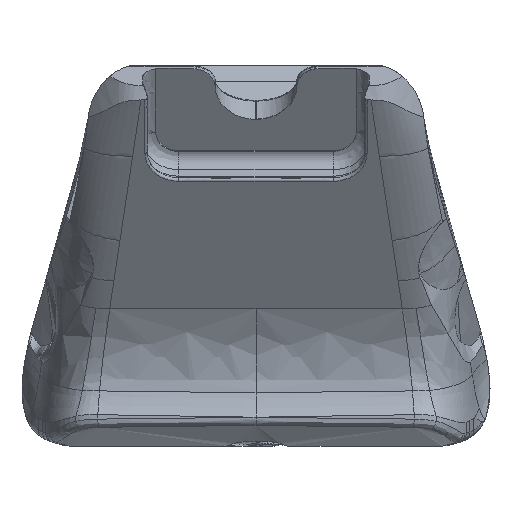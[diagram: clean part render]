
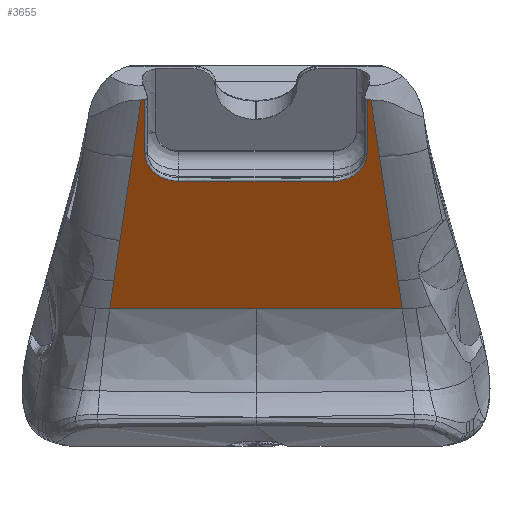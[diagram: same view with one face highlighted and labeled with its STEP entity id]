
A CAD part, top view. The second image highlights one B-rep face of the part: STEP entity #3655.
In plain terms, the highlighted planar face has unit normal (0, -0.574, 0.819).
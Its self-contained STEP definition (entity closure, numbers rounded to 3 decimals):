
#55=PLANE('',#3743);
#80=LINE('',#8106,#205);
#141=LINE('',#21353,#266);
#144=LINE('',#21873,#269);
#145=LINE('',#22546,#270);
#150=LINE('',#23226,#275);
#152=LINE('',#23978,#277);
#153=LINE('',#25062,#278);
#154=LINE('',#26038,#279);
#155=LINE('',#26561,#280);
#157=LINE('',#26828,#282);
#205=VECTOR('',#3846,10.891);
#266=VECTOR('',#3919,10.);
#269=VECTOR('',#3936,7.582);
#270=VECTOR('',#3937,32.237);
#275=VECTOR('',#3942,10.891);
#277=VECTOR('',#3948,32.237);
#278=VECTOR('',#3959,10.);
#279=VECTOR('',#3960,10.);
#280=VECTOR('',#3961,10.);
#282=VECTOR('',#3965,7.582);
#530=FACE_OUTER_BOUND('',#742,.T.);
#742=EDGE_LOOP('',(#3203,#3204,#3205,#3206,#3207,#3208,#3209,#3210,#3211,
#3212,#3213,#3214,#3215,#3216,#3217,#3218,#3219));
#1095=B_SPLINE_CURVE_WITH_KNOTS('',3,(#21550,#21551,#21552,#21553),
 .UNSPECIFIED.,.F.,.F.,(4,4),(-1.799,-0.357),
 .UNSPECIFIED.);
#1119=B_SPLINE_CURVE_WITH_KNOTS('',3,(#24038,#24039,#24040,#24041),
 .UNSPECIFIED.,.F.,.F.,(4,4),(-3.4,0.),.UNSPECIFIED.);
#1124=B_SPLINE_CURVE_WITH_KNOTS('',3,(#26606,#26607,#26608,#26609,#26610,
#26611),.UNSPECIFIED.,.F.,.F.,(4,1,1,4),(-1.173,-0.838,
-0.503,0.),.UNSPECIFIED.);
#1127=B_SPLINE_CURVE_WITH_KNOTS('',3,(#26980,#26981,#26982,#26983,#26984,
#26985),.UNSPECIFIED.,.F.,.F.,(4,2,4),(-0.62,-0.566,
-0.322),.UNSPECIFIED.);
#1129=B_SPLINE_CURVE_WITH_KNOTS('',3,(#27039,#27040,#27041,#27042,#27043,
#27044),.UNSPECIFIED.,.F.,.F.,(4,1,1,4),(-1.173,-0.838,
-0.503,0.),.UNSPECIFIED.);
#1145=B_SPLINE_CURVE_WITH_KNOTS('',3,(#27504,#27505,#27506,#27507,#27508,
#27509),.UNSPECIFIED.,.F.,.F.,(4,2,4),(1.153,1.162,
1.216),.UNSPECIFIED.);
#1147=B_SPLINE_CURVE_WITH_KNOTS('',3,(#27533,#27534,#27535,#27536),
 .UNSPECIFIED.,.F.,.F.,(4,4),(-1.442,0.),
 .UNSPECIFIED.);
#1358=VERTEX_POINT('',#8088);
#1359=VERTEX_POINT('',#8105);
#1490=VERTEX_POINT('',#20215);
#1496=VERTEX_POINT('',#21314);
#1497=VERTEX_POINT('',#21352);
#1506=VERTEX_POINT('',#21522);
#1509=VERTEX_POINT('',#21548);
#1513=VERTEX_POINT('',#21856);
#1514=VERTEX_POINT('',#22474);
#1515=VERTEX_POINT('',#22545);
#1533=VERTEX_POINT('',#24035);
#1534=VERTEX_POINT('',#24037);
#1536=VERTEX_POINT('',#25023);
#1537=VERTEX_POINT('',#25061);
#1538=VERTEX_POINT('',#26027);
#1541=VERTEX_POINT('',#27037);
#1569=VERTEX_POINT('',#27503);
#1783=EDGE_CURVE('',#1359,#1358,#80,.T.);
#2014=EDGE_CURVE('',#1496,#1497,#141,.T.);
#2027=EDGE_CURVE('',#1509,#1506,#1095,.T.);
#2035=EDGE_CURVE('',#1513,#1490,#144,.T.);
#2037=EDGE_CURVE('',#1514,#1515,#145,.T.);
#2054=EDGE_CURVE('',#1497,#1513,#150,.T.);
#2063=EDGE_CURVE('',#1514,#1490,#152,.T.);
#2068=EDGE_CURVE('',#1533,#1534,#1119,.T.);
#2073=EDGE_CURVE('',#1537,#1536,#153,.T.);
#2076=EDGE_CURVE('',#1538,#1496,#154,.T.);
#2077=EDGE_CURVE('',#1536,#1359,#155,.T.);
#2079=EDGE_CURVE('',#1534,#1509,#1124,.T.);
#2080=EDGE_CURVE('',#1358,#1515,#157,.T.);
#2083=EDGE_CURVE('',#1538,#1506,#1127,.T.);
#2086=EDGE_CURVE('',#1541,#1533,#1129,.T.);
#2128=EDGE_CURVE('',#1537,#1569,#1145,.T.);
#2132=EDGE_CURVE('',#1569,#1541,#1147,.T.);
#3203=ORIENTED_EDGE('',*,*,#2128,.F.);
#3204=ORIENTED_EDGE('',*,*,#2073,.T.);
#3205=ORIENTED_EDGE('',*,*,#2077,.T.);
#3206=ORIENTED_EDGE('',*,*,#1783,.T.);
#3207=ORIENTED_EDGE('',*,*,#2080,.T.);
#3208=ORIENTED_EDGE('',*,*,#2037,.F.);
#3209=ORIENTED_EDGE('',*,*,#2063,.T.);
#3210=ORIENTED_EDGE('',*,*,#2035,.F.);
#3211=ORIENTED_EDGE('',*,*,#2054,.F.);
#3212=ORIENTED_EDGE('',*,*,#2014,.F.);
#3213=ORIENTED_EDGE('',*,*,#2076,.F.);
#3214=ORIENTED_EDGE('',*,*,#2083,.T.);
#3215=ORIENTED_EDGE('',*,*,#2027,.F.);
#3216=ORIENTED_EDGE('',*,*,#2079,.F.);
#3217=ORIENTED_EDGE('',*,*,#2068,.F.);
#3218=ORIENTED_EDGE('',*,*,#2086,.F.);
#3219=ORIENTED_EDGE('',*,*,#2132,.F.);
#3655=ADVANCED_FACE('',(#530),#55,.T.);
#3743=AXIS2_PLACEMENT_3D('',#27532,#4017,#4018);
#3846=DIRECTION('',(-0.122,-0.813,-0.569));
#3919=DIRECTION('',(0.122,-0.813,-0.569));
#3936=DIRECTION('',(0.122,-0.813,-0.569));
#3937=DIRECTION('',(-1.,0.,0.));
#3942=DIRECTION('',(0.122,-0.813,-0.569));
#3948=DIRECTION('',(1.,0.,0.));
#3959=DIRECTION('',(-0.122,-0.813,-0.569));
#3960=DIRECTION('',(0.122,-0.813,-0.569));
#3961=DIRECTION('',(-0.122,-0.813,-0.569));
#3965=DIRECTION('',(-0.122,-0.813,-0.569));
#4017=DIRECTION('center_axis',(0.,-0.574,0.819));
#4018=DIRECTION('ref_axis',(0.,0.819,0.574));
#8088=CARTESIAN_POINT('',(-31.313,-27.694,33.24));
#8105=CARTESIAN_POINT('',(-29.986,-18.84,39.441));
#8106=CARTESIAN_POINT('',(-29.986,-18.84,39.441));
#20215=CARTESIAN_POINT('',(32.237,-33.859,28.924));
#21314=CARTESIAN_POINT('',(27.203,-0.273,52.441));
#21352=CARTESIAN_POINT('',(29.986,-18.84,39.441));
#21353=CARTESIAN_POINT('',(27.203,-0.273,52.441));
#21522=CARTESIAN_POINT('',(24.467,12.154,61.142));
#21548=CARTESIAN_POINT('',(24.467,0.341,52.871));
#21550=CARTESIAN_POINT('Ctrl Pts',(24.467,0.341,52.871));
#21551=CARTESIAN_POINT('Ctrl Pts',(24.467,4.279,55.628));
#21552=CARTESIAN_POINT('Ctrl Pts',(24.467,8.216,58.385));
#21553=CARTESIAN_POINT('Ctrl Pts',(24.467,12.154,61.142));
#21856=CARTESIAN_POINT('',(31.313,-27.694,33.24));
#21873=CARTESIAN_POINT('',(31.313,-27.694,33.24));
#22474=CARTESIAN_POINT('',(0.,-33.859,28.924));
#22545=CARTESIAN_POINT('',(-32.237,-33.859,28.924));
#22546=CARTESIAN_POINT('',(0.,-33.859,28.924));
#23226=CARTESIAN_POINT('',(29.986,-18.84,39.441));
#23978=CARTESIAN_POINT('',(0.,-33.859,28.924));
#24035=CARTESIAN_POINT('',(-17.,-5.776,48.588));
#24037=CARTESIAN_POINT('',(17.,-5.776,48.588));
#24038=CARTESIAN_POINT('Ctrl Pts',(-17.,-5.776,48.588));
#24039=CARTESIAN_POINT('Ctrl Pts',(-5.667,-5.776,
48.588));
#24040=CARTESIAN_POINT('Ctrl Pts',(5.667,-5.776,48.588));
#24041=CARTESIAN_POINT('Ctrl Pts',(17.,-5.776,48.588));
#25023=CARTESIAN_POINT('',(-27.203,-0.273,52.441));
#25061=CARTESIAN_POINT('',(-25.339,12.16,61.147));
#25062=CARTESIAN_POINT('',(-25.339,12.16,61.147));
#26027=CARTESIAN_POINT('',(25.339,12.16,61.147));
#26038=CARTESIAN_POINT('',(25.339,12.16,61.147));
#26561=CARTESIAN_POINT('',(-27.203,-0.273,52.441));
#26606=CARTESIAN_POINT('Ctrl Pts',(17.,-5.776,48.588));
#26607=CARTESIAN_POINT('Ctrl Pts',(18.117,-5.776,48.588));
#26608=CARTESIAN_POINT('Ctrl Pts',(20.347,-5.357,48.881));
#26609=CARTESIAN_POINT('Ctrl Pts',(23.488,-3.311,50.314));
#26610=CARTESIAN_POINT('Ctrl Pts',(24.467,-1.032,51.91));
#26611=CARTESIAN_POINT('Ctrl Pts',(24.467,0.341,52.871));
#26828=CARTESIAN_POINT('',(-31.313,-27.694,33.24));
#26980=CARTESIAN_POINT('Ctrl Pts',(25.339,12.16,61.147));
#26981=CARTESIAN_POINT('Ctrl Pts',(25.314,12.161,61.147));
#26982=CARTESIAN_POINT('Ctrl Pts',(25.289,12.161,61.148));
#26983=CARTESIAN_POINT('Ctrl Pts',(25.147,12.163,61.149));
#26984=CARTESIAN_POINT('Ctrl Pts',(25.036,12.161,61.148));
#26985=CARTESIAN_POINT('Ctrl Pts',(24.467,12.154,61.142));
#27037=CARTESIAN_POINT('',(-24.467,0.341,52.871));
#27039=CARTESIAN_POINT('Ctrl Pts',(-24.467,0.341,
52.871));
#27040=CARTESIAN_POINT('Ctrl Pts',(-24.467,-0.574,
52.23));
#27041=CARTESIAN_POINT('Ctrl Pts',(-23.956,-2.401,
50.951));
#27042=CARTESIAN_POINT('Ctrl Pts',(-21.458,-4.974,
49.15));
#27043=CARTESIAN_POINT('Ctrl Pts',(-18.676,-5.776,
48.588));
#27044=CARTESIAN_POINT('Ctrl Pts',(-17.,-5.776,48.588));
#27503=CARTESIAN_POINT('',(-24.467,12.154,61.142));
#27504=CARTESIAN_POINT('Ctrl Pts',(-25.339,12.16,61.147));
#27505=CARTESIAN_POINT('Ctrl Pts',(-25.319,12.161,61.147));
#27506=CARTESIAN_POINT('Ctrl Pts',(-25.298,12.161,61.148));
#27507=CARTESIAN_POINT('Ctrl Pts',(-25.158,12.163,61.149));
#27508=CARTESIAN_POINT('Ctrl Pts',(-25.044,12.161,61.148));
#27509=CARTESIAN_POINT('Ctrl Pts',(-24.467,12.154,61.142));
#27532=CARTESIAN_POINT('Origin',(0.,-33.859,28.924));
#27533=CARTESIAN_POINT('Ctrl Pts',(-24.467,12.154,61.142));
#27534=CARTESIAN_POINT('Ctrl Pts',(-24.467,8.216,58.385));
#27535=CARTESIAN_POINT('Ctrl Pts',(-24.467,4.279,55.628));
#27536=CARTESIAN_POINT('Ctrl Pts',(-24.467,0.341,
52.871));
